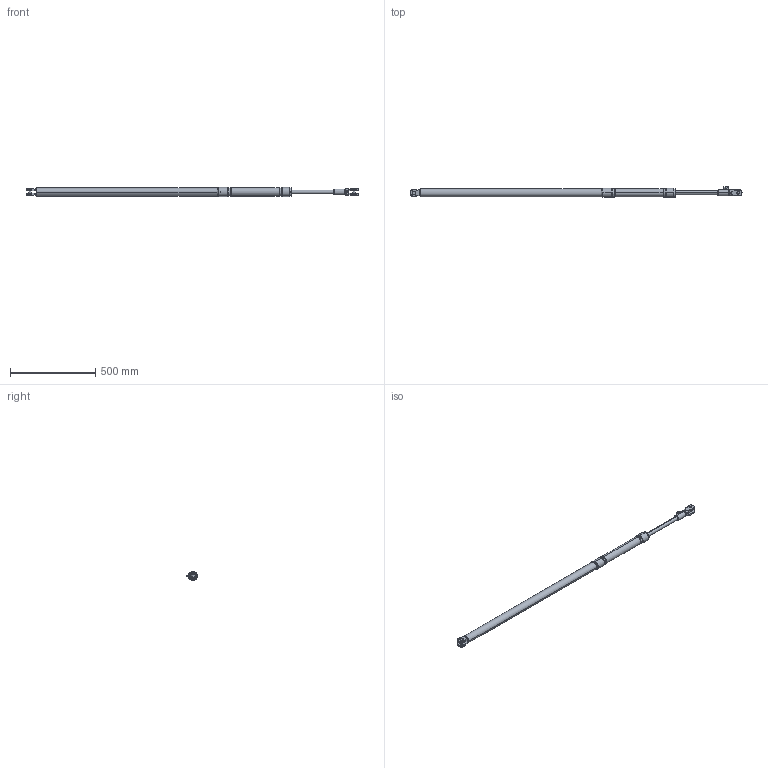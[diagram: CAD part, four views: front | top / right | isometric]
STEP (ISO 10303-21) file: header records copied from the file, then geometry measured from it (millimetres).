
FILE_DESCRIPTION (( 'STEP AP203' ), '1' );
FILE_NAME ('VNG_040.STEP', '2017-12-29T10:49:14', ( 'Pierluca' ), ( '' ), 'SwSTEP 2.0', 'SolidWorks 2015', '' );
FILE_SCHEMA (( 'CONFIG_CONTROL_DESIGN' ));
Length unit declared in the file: millimetre
Products named in the file (1): VNG_040
Bounding box: 1947 x 63.06 x 53 mm (x, y, z)
Volume: 2961548.3 mm3; surface area: 279574.1 mm2
Topology: 1 solids, 1 shells, 173 faces, 408 edges, 251 vertices
Faces by surface type: plane 63, cylinder 58, cone 31, torus 21
Entity records: 5535 total; most frequent: CARTESIAN_POINT 1437, DIRECTION 887, ORIENTED_EDGE 816, EDGE_CURVE 408, AXIS2_PLACEMENT_3D 360, VERTEX_POINT 251, EDGE_LOOP 191, CIRCLE 186
